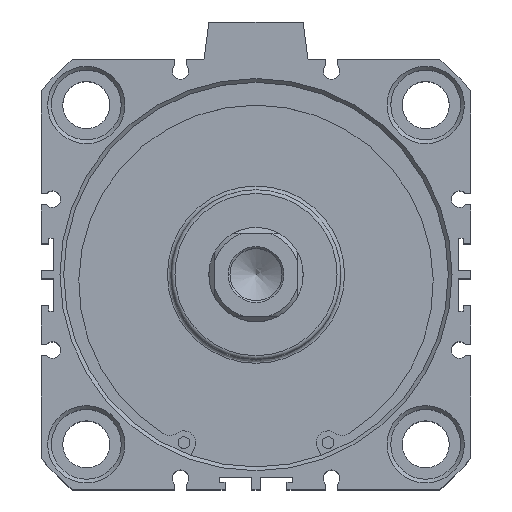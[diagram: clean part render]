
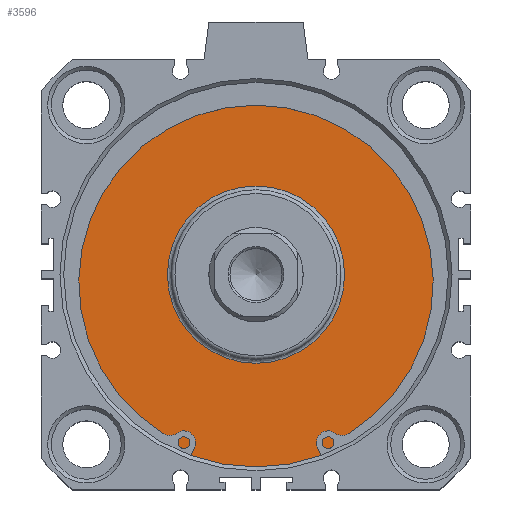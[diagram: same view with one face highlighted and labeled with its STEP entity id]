
A CAD part, top view. The second image highlights one B-rep face of the part: STEP entity #3596.
In plain terms, the highlighted planar face has unit normal (0, 0, 1).
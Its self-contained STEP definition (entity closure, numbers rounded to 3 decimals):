
#3545=CARTESIAN_POINT('',(0.957,25.414,57.6));
#3546=VERTEX_POINT('',#3545);
#3547=CARTESIAN_POINT('',(0.957,1.914,57.6));
#3548=DIRECTION('',(0.0,0.0,1.0));
#3549=DIRECTION('',(0.0,-1.0,0.0));
#3550=AXIS2_PLACEMENT_3D('',#3547,#3548,#3549);
#3551=CIRCLE('',#3550,23.5);
#3552=EDGE_CURVE('',#3546,#3546,#3551,.T.);
#3577=CARTESIAN_POINT('',(0.957,38.664,57.6));
#3578=DIRECTION('',(0.0,0.0,1.0));
#3579=DIRECTION('',(1.0,0.0,0.0));
#3580=AXIS2_PLACEMENT_3D('',#3577,#3578,#3579);
#3581=PLANE('',#3580);
#3582=CARTESIAN_POINT('',(0.957,52.914,57.6));
#3583=VERTEX_POINT('',#3582);
#3584=CARTESIAN_POINT('',(0.957,1.914,57.6));
#3585=DIRECTION('',(0.0,0.0,-1.0));
#3586=DIRECTION('',(0.0,1.0,0.0));
#3587=AXIS2_PLACEMENT_3D('',#3584,#3585,#3586);
#3588=CIRCLE('',#3587,51.);
#3589=EDGE_CURVE('',#3583,#3583,#3588,.T.);
#3590=ORIENTED_EDGE('',*,*,#3589,.F.);
#3591=EDGE_LOOP('',(#3590));
#3592=FACE_OUTER_BOUND('',#3591,.T.);
#3593=ORIENTED_EDGE('',*,*,#3552,.F.);
#3594=EDGE_LOOP('',(#3593));
#3595=FACE_BOUND('',#3594,.T.);
#3596=ADVANCED_FACE('',(#3592,#3595),#3581,.T.);
